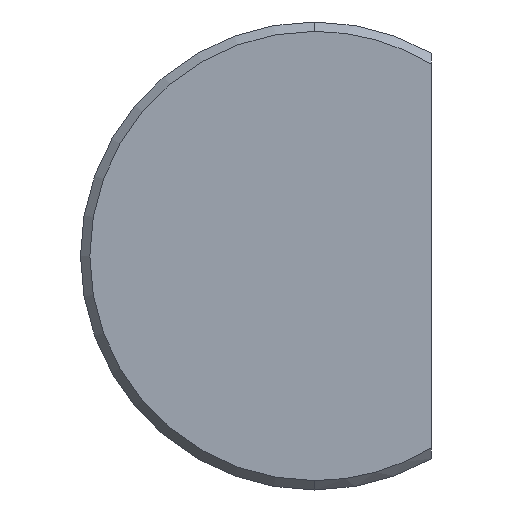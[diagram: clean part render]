
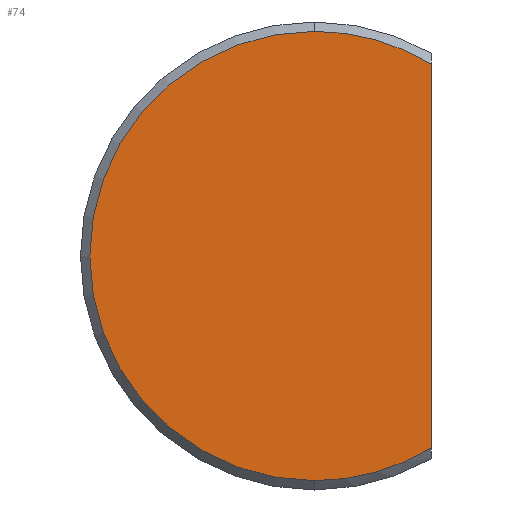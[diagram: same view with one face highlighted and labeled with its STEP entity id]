
A CAD part, front view. The second image highlights one B-rep face of the part: STEP entity #74.
In plain terms, the highlighted planar face has unit normal (0, -1, 0).
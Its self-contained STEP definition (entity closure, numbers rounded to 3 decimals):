
#27 = FACE_OUTER_BOUND ( 'NONE', #139, .T. ) ;
#40 = ORIENTED_EDGE ( 'NONE', *, *, #374, .T. ) ;
#52 = VERTEX_POINT ( 'NONE', #378 ) ;
#56 = ORIENTED_EDGE ( 'NONE', *, *, #338, .T. ) ;
#74 = ADVANCED_FACE ( 'NONE', ( #27 ), #395, .T. ) ;
#75 = DIRECTION ( 'NONE',  ( 0., -1., 0. ) ) ;
#80 = CIRCLE ( 'NONE', #119, 4.8 ) ;
#113 = DIRECTION ( 'NONE',  ( 0., -1., 0. ) ) ;
#115 = VERTEX_POINT ( 'NONE', #375 ) ;
#119 = AXIS2_PLACEMENT_3D ( 'NONE', #205, #75, #491 ) ;
#128 = AXIS2_PLACEMENT_3D ( 'NONE', #584, #255, #445 ) ;
#139 = EDGE_LOOP ( 'NONE', ( #446, #475, #40, #56 ) ) ;
#184 = AXIS2_PLACEMENT_3D ( 'NONE', #388, #113, #300 ) ;
#205 = CARTESIAN_POINT ( 'NONE',  ( 0., 0., 0. ) ) ;
#224 = AXIS2_PLACEMENT_3D ( 'NONE', #311, #299, #304 ) ;
#255 = DIRECTION ( 'NONE',  ( 0., -1., 0. ) ) ;
#271 = EDGE_CURVE ( 'NONE', #115, #506, #434, .T. ) ;
#273 = EDGE_CURVE ( 'NONE', #52, #115, #80, .T. ) ;
#299 = DIRECTION ( 'NONE',  ( 0., -1., 0. ) ) ;
#300 = DIRECTION ( 'NONE',  ( 0., 0., -1. ) ) ;
#304 = DIRECTION ( 'NONE',  ( 0., 0., -1. ) ) ;
#311 = CARTESIAN_POINT ( 'NONE',  ( 0., 0., 0. ) ) ;
#338 = EDGE_CURVE ( 'NONE', #467, #52, #550, .T. ) ;
#358 = DIRECTION ( 'NONE',  ( 0., 0., 1. ) ) ;
#374 = EDGE_CURVE ( 'NONE', #506, #467, #532, .T. ) ;
#375 = CARTESIAN_POINT ( 'NONE',  ( 0., 0., 4.8 ) ) ;
#377 = CARTESIAN_POINT ( 'NONE',  ( 0., 0., -4.8 ) ) ;
#378 = CARTESIAN_POINT ( 'NONE',  ( 2.5, 0., 4.098 ) ) ;
#388 = CARTESIAN_POINT ( 'NONE',  ( 0., 0., 0. ) ) ;
#395 = PLANE ( 'NONE',  #128 ) ;
#434 = CIRCLE ( 'NONE', #224, 4.8 ) ;
#445 = DIRECTION ( 'NONE',  ( 0., 0., -1. ) ) ;
#446 = ORIENTED_EDGE ( 'NONE', *, *, #273, .T. ) ;
#467 = VERTEX_POINT ( 'NONE', #479 ) ;
#475 = ORIENTED_EDGE ( 'NONE', *, *, #271, .T. ) ;
#479 = CARTESIAN_POINT ( 'NONE',  ( 2.5, 0., -4.098 ) ) ;
#491 = DIRECTION ( 'NONE',  ( 0., 0., -1. ) ) ;
#506 = VERTEX_POINT ( 'NONE', #377 ) ;
#532 = CIRCLE ( 'NONE', #184, 4.8 ) ;
#550 = LINE ( 'NONE', #592, #579 ) ;
#579 = VECTOR ( 'NONE', #358, 1000. ) ;
#584 = CARTESIAN_POINT ( 'NONE',  ( 0., 0., 0. ) ) ;
#592 = CARTESIAN_POINT ( 'NONE',  ( 2.5, 0., -4.33 ) ) ;
